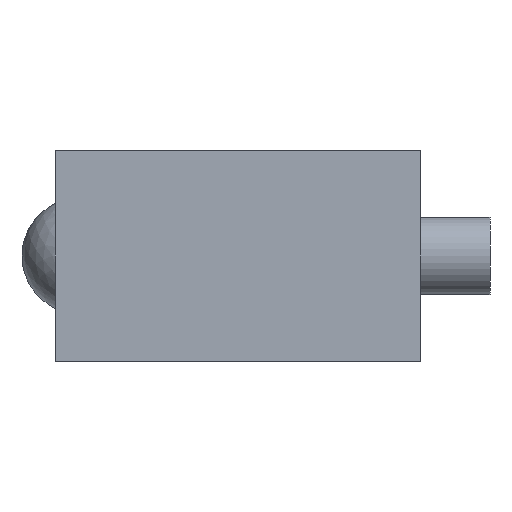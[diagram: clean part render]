
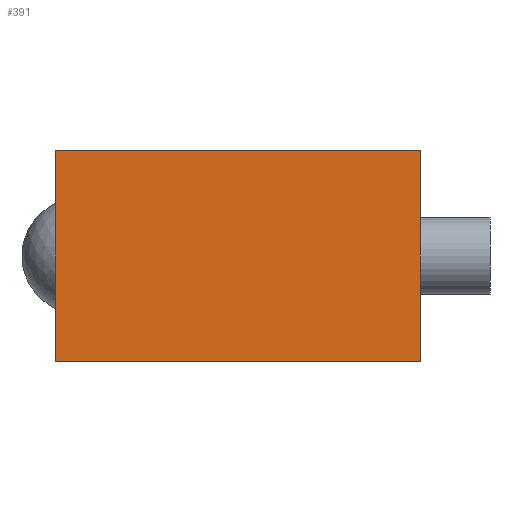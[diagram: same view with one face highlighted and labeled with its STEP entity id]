
A CAD part, left-side view. The second image highlights one B-rep face of the part: STEP entity #391.
In plain terms, the highlighted planar face has unit normal (-1, 0, 0).
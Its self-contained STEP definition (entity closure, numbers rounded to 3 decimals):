
#21=LINE('',#646,#37);
#27=LINE('',#661,#43);
#31=LINE('',#673,#47);
#33=LINE('',#676,#49);
#37=VECTOR('',#546,10.);
#43=VECTOR('',#556,10.);
#47=VECTOR('',#572,10.);
#49=VECTOR('',#576,10.);
#79=PLANE('',#461);
#106=FACE_OUTER_BOUND('',#150,.T.);
#150=EDGE_LOOP('',(#312,#313,#314,#315));
#196=VERTEX_POINT('',#644);
#197=VERTEX_POINT('',#645);
#203=VERTEX_POINT('',#658);
#204=VERTEX_POINT('',#660);
#229=EDGE_CURVE('',#196,#197,#21,.T.);
#236=EDGE_CURVE('',#203,#204,#27,.T.);
#242=EDGE_CURVE('',#204,#196,#31,.T.);
#244=EDGE_CURVE('',#197,#203,#33,.T.);
#312=ORIENTED_EDGE('',*,*,#236,.F.);
#313=ORIENTED_EDGE('',*,*,#244,.F.);
#314=ORIENTED_EDGE('',*,*,#229,.F.);
#315=ORIENTED_EDGE('',*,*,#242,.F.);
#391=ADVANCED_FACE('',(#106),#79,.T.);
#461=AXIS2_PLACEMENT_3D('',#675,#574,#575);
#546=DIRECTION('',(0.,0.,1.));
#556=DIRECTION('',(0.,0.,-1.));
#572=DIRECTION('',(0.,1.,0.));
#574=DIRECTION('center_axis',(-1.,0.,0.));
#575=DIRECTION('ref_axis',(0.,-1.,0.));
#576=DIRECTION('',(0.,-1.,0.));
#644=CARTESIAN_POINT('',(-210.,18.9,-10.9));
#645=CARTESIAN_POINT('',(-210.,18.9,10.9));
#646=CARTESIAN_POINT('',(-210.,18.9,0.));
#658=CARTESIAN_POINT('',(-210.,-18.9,10.9));
#660=CARTESIAN_POINT('',(-210.,-18.9,-10.9));
#661=CARTESIAN_POINT('',(-210.,-18.9,0.));
#673=CARTESIAN_POINT('',(-210.,18.9,-10.9));
#675=CARTESIAN_POINT('Origin',(-210.,18.9,0.));
#676=CARTESIAN_POINT('',(-210.,18.9,10.9));
